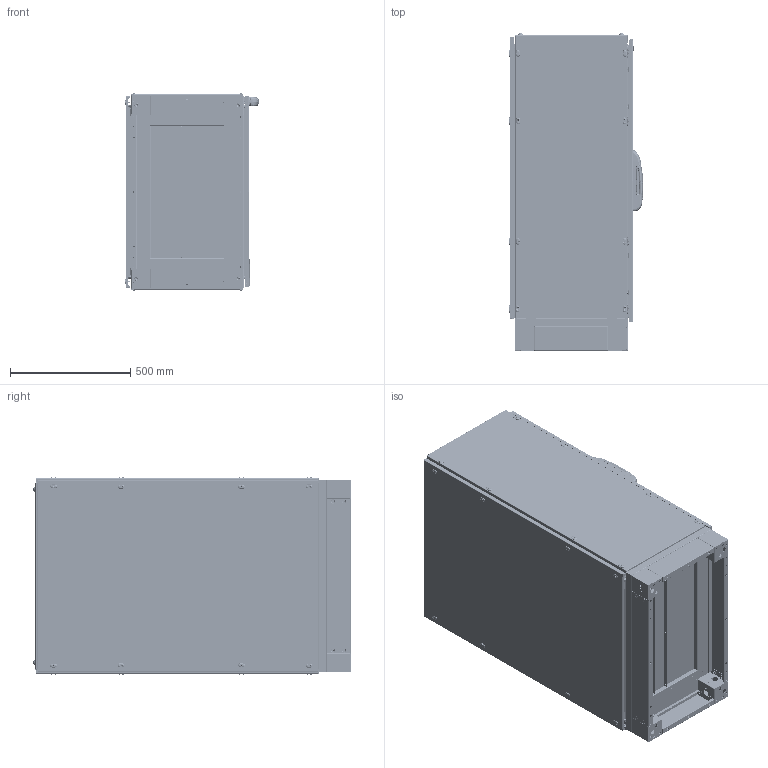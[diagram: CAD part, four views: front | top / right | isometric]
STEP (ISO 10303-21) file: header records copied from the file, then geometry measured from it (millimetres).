
FILE_DESCRIPTION (( 'STEP AP203' ), '1' );
FILE_NAME ('708.125 800x1200x500.STEP', '2020-04-06T09:43:55', ( '' ), ( '' ), 'SwSTEP 2.0', 'SolidWorks 2019', '' );
FILE_SCHEMA (( 'CONFIG_CONTROL_DESIGN' ));
Length unit declared in the file: millimetre
Products named in the file (124): pan head cross recess screw_iso_ISO 7045 - M5 x 10 - Z --- 10C; M6 HAVÞA PLASTÝK CÝVATA; V2 -2011 DT BAZA KAPAGI ON_PP 12.0046 - 800; V2 BAZA KOSESI2015_100; TEOS TEK KAPAK REVÝZE_800x1200; M5 DÝKEY PROFÝL RONDELA; M8 Somun Kafesi_m8; MP 18.7631 Modul; TEOS Kilit Üst Çubuk Montaj_1200H; M6 KAFES SOMU2015; M8 Kare Somun_m8; ENINE DELIKLI PROFIL_800; PB 14.0004 M6 HAVÞA PLASTÝK CÝVATA; 03taban derinlik percinli_PP 12.0024 - 500; TEOS V2 BAZA S嵞TEM廆800X500; TEOS SIDE PANEL_706.125 1200X500; TEOS Kilit Üst Çubuk_1200--MP 16.0128; on citaVER3 teos26-12_800; MP 18.7631 Gövde-Plastik; Montaj PlakAsi aaaaa 3mm_PP 12.0100 800x1200; kapali dikey profilkenetli_ita oluklu10-aaaaaaaaaaaa-1_500; MP 18.7631 yddk_tozkapagi; MP 11.0140 TEOS ALUMINYUM KOSE APPROVED 16.08.2010; mentese ust alt 09-2010; BAZA KÖÞES_SAG; MP 14.0006 PVC SIZDIRMAZLIK CONTASI; Teos-Neo MP Durdurucu Destek; MP 18.7631 Arka Kapak; TEOS-NEO MP Sol Dayama; 03-2012 sac kilit dil 10-2010 alt ust; mentese bakýr kapak 09-201; yan arka kapak baglantý saci; delikli profil cerceve_800x1200; TEOS Kilit Alt Çubuk_1200; Teos-Neo MP Durdurucu; 252016-2; arka kapi 1,5 mm gecme askili 09-2014 R3_PP 12.0079 800x1200; 03-taban genislik percinli 04 - 2012 100-120_PP 12.0020 - 800; Teos-Neo MP Sol Braketi; socket head cap screw_am_B18.3.1M - 8 x 1.25 x 35 Hex SHCS -- 35NHX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
Assembly tree (384 placements, depth 7):
  708.125 800x1200x500
    TEOS iskelet_800x1200x500
      kapali dikey profilkenetli_ita oluklu10-aaaaaaaaaaaa-1_1200  x4
      kapali dikey profilkenetli_ita oluklu10-aaaaaaaaaaaa-1_500  x4
      kapali dikey profilkenetli_ita oluklu10-aaaaaaaaaaaa-1_800  x4
      L KOSE DESTEKorj1  x8
      kose rondela kabartmaSIZ 10  x15
      kose rondela kabartmaSIZ 12
      MP 11.0140 TEOS ALUMINYUM KOSE APPROVED 16.08.2010  x8
      M5 DÝKEY PROFÝL RONDELA  x16
      percinli taban-vidalý kapak-kose pls yok_701.850-80X50 ALT
        03-taban genislik percinli 04 - 2012 100-120_PP 12.0020 - 800  x2
        03taban derinlik percinli_PP 12.0024 - 500  x2
        03-KOSE PUNT_PP 12.0027
        03-KOSE PUNT
        Mirror03-KOSE PUNT  x2
        TEOS V2 BAZA S嵞TEM廆800X500
          BAZA KÖÞES_SAG
            V2 BAZA KOSESI2015_100
            BAZA SISTEMIV2-6 baza kapaðý201550x40_TEKPAN LOGOLU
            M6 KAFES SOMU2015
              kafes somun kafes
              somu
            M6 KAFES SOMU2015
              kafes somun kafes
              somu
          V2 -2011 DT BAZA KAPAGI ON_PP 12.0046 - 800  x2
          BAZA KÖÞES_SOL
            V2 BAZA KOSESI2015_100
            BAZA SISTEMIV2-6 baza kapaðý201550x40
            M6 KAFES SOMU2015
              kafes somun kafes
              somu
            M6 KAFES SOMU2015
              kafes somun kafes
              somu
          BAZA KÖÞES_SAG
            V2 BAZA KOSESI2015_100
            BAZA SISTEMIV2-6 baza kapaðý201550x40_TEKPAN LOGOLU
            M6 KAFES SOMU2015
              kafes somun kafes
              somu
            M6 KAFES SOMU2015
              kafes somun kafes
              somu
          BAZA KÖÞES_SOL
            V2 BAZA KOSESI2015_100
            BAZA SISTEMIV2-6 baza kapaðý201550x40
            M6 KAFES SOMU2015
              kafes somun kafes
              somu
            M6 KAFES SOMU2015
              kafes somun kafes
              somu
          V3 -2011 DT BAZA KAPAGI yan_PP 12.0050 - 500  x2
          flat head screw_am_B18.6.7M - M6 x 1.0 x 20 Type I Cross Recessed FHMS --20N  x8
        03-TABAN SACI SURGU_PP 12.0031 - 800
        03-TABAN SACI U1 04-2012_PP 12.0041 -800-75
        03-TABAN SACI U1 04-2012_PP 12.0036 -800-200
        mp aLT DAYAMA_PP 12.0092 - 500  x2
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Bounding box: 558.07 x 1317.1 x 818.87 mm (x, y, z)
Volume: 15674467.8 mm3; surface area: 16284565.7 mm2
Topology: 331 solids, 371 shells, 47658 faces, 128762 edges, 81542 vertices
Faces by surface type: plane 30455, cylinder 12284, bspline 2211, torus 1139, cone 960, sphere 609
Entity records: 674101 total; most frequent: CARTESIAN_POINT 289650, ORIENTED_EDGE 78258, DIRECTION 71608, EDGE_CURVE 39129, VECTOR 26138, LINE 26138, VERTEX_POINT 25024, AXIS2_PLACEMENT_3D 22735
